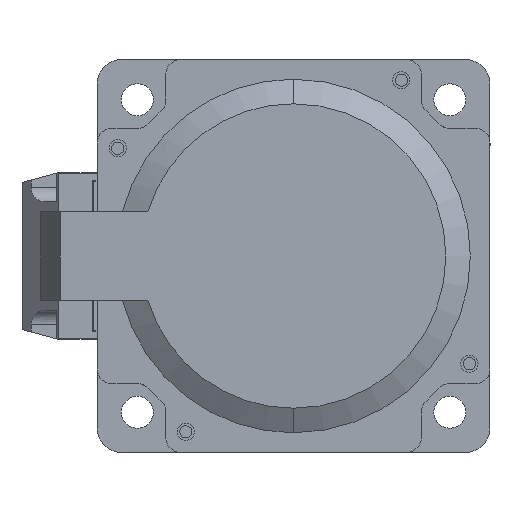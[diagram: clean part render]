
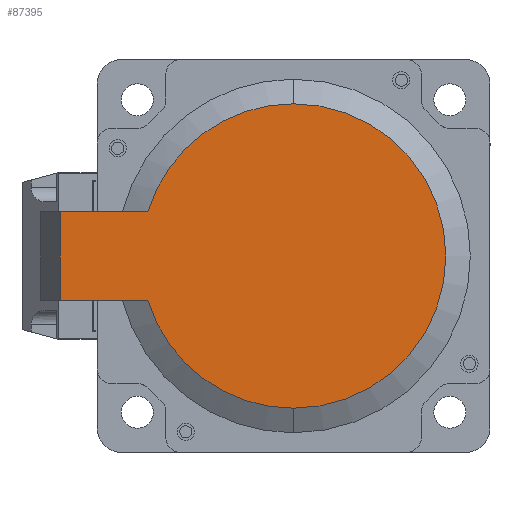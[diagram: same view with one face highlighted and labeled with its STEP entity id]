
A CAD part, left-side view. The second image highlights one B-rep face of the part: STEP entity #87395.
In plain terms, the highlighted planar face has unit normal (-1, 0, 0).
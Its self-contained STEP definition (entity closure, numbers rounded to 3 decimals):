
#1275 = DIRECTION ( 'NONE',  ( 0., 1., 0. ) ) ;
#4127 = AXIS2_PLACEMENT_3D ( 'NONE', #15299, #45981, #7302 ) ;
#4753 = CARTESIAN_POINT ( 'NONE',  ( 1030.931, 47.549, 9. ) ) ;
#6705 = ORIENTED_EDGE ( 'NONE', *, *, #36675, .T. ) ;
#7302 = DIRECTION ( 'NONE',  ( 0., 0., -1. ) ) ;
#7835 = AXIS2_PLACEMENT_3D ( 'NONE', #68580, #37611, #90963 ) ;
#9219 = LINE ( 'NONE', #58766, #88083 ) ;
#10465 = CIRCLE ( 'NONE', #49443, 31. ) ;
#10925 = ORIENTED_EDGE ( 'NONE', *, *, #48169, .F. ) ;
#12459 = DIRECTION ( 'NONE',  ( 0., 0., -1. ) ) ;
#13539 = FACE_OUTER_BOUND ( 'NONE', #24797, .T. ) ;
#14369 = ORIENTED_EDGE ( 'NONE', *, *, #21042, .T. ) ;
#14646 = DIRECTION ( 'NONE',  ( 0., 0., -1. ) ) ;
#15299 = CARTESIAN_POINT ( 'NONE',  ( 1030.931, 0., 0. ) ) ;
#18781 = DIRECTION ( 'NONE',  ( 0., 0., 1. ) ) ;
#19468 = VERTEX_POINT ( 'NONE', #47230 ) ;
#21042 = EDGE_CURVE ( 'NONE', #98476, #39352, #98800, .T. ) ;
#22027 = CARTESIAN_POINT ( 'NONE',  ( 1030.931, 0., 0. ) ) ;
#24797 = EDGE_LOOP ( 'NONE', ( #52352, #6705, #45211, #86669, #14369, #10925 ) ) ;
#29308 = VERTEX_POINT ( 'NONE', #88545 ) ;
#36675 = EDGE_CURVE ( 'NONE', #77223, #19468, #10465, .T. ) ;
#37611 = DIRECTION ( 'NONE',  ( -1., 0., 0. ) ) ;
#39319 = CARTESIAN_POINT ( 'NONE',  ( 1030.931, 47.549, 9. ) ) ;
#39352 = VERTEX_POINT ( 'NONE', #4753 ) ;
#42849 = DIRECTION ( 'NONE',  ( -1., 0., 0. ) ) ;
#44875 = VECTOR ( 'NONE', #18781, 1000. ) ;
#45211 = ORIENTED_EDGE ( 'NONE', *, *, #67749, .T. ) ;
#45740 = VERTEX_POINT ( 'NONE', #54151 ) ;
#45981 = DIRECTION ( 'NONE',  ( -1., 0., 0. ) ) ;
#46839 = CIRCLE ( 'NONE', #4127, 31. ) ;
#47230 = CARTESIAN_POINT ( 'NONE',  ( 1030.931, 0., -31. ) ) ;
#48169 = EDGE_CURVE ( 'NONE', #29308, #39352, #49639, .T. ) ;
#49443 = AXIS2_PLACEMENT_3D ( 'NONE', #22027, #52744, #14646 ) ;
#49639 = LINE ( 'NONE', #55819, #44875 ) ;
#51607 = CIRCLE ( 'NONE', #7835, 31. ) ;
#52247 = CARTESIAN_POINT ( 'NONE',  ( 1030.931, 29.665, -9. ) ) ;
#52352 = ORIENTED_EDGE ( 'NONE', *, *, #64966, .F. ) ;
#52744 = DIRECTION ( 'NONE',  ( -1., 0., 0. ) ) ;
#54151 = CARTESIAN_POINT ( 'NONE',  ( 1030.931, 0., 31. ) ) ;
#55819 = CARTESIAN_POINT ( 'NONE',  ( 1030.931, 47.549, -9. ) ) ;
#57794 = DIRECTION ( 'NONE',  ( 0., 1., 0. ) ) ;
#58766 = CARTESIAN_POINT ( 'NONE',  ( 1030.931, 47.549, -9. ) ) ;
#62921 = CARTESIAN_POINT ( 'NONE',  ( 1030.931, 29.665, 9. ) ) ;
#64966 = EDGE_CURVE ( 'NONE', #77223, #29308, #9219, .T. ) ;
#67749 = EDGE_CURVE ( 'NONE', #19468, #45740, #46839, .T. ) ;
#68580 = CARTESIAN_POINT ( 'NONE',  ( 1030.931, 0., 0. ) ) ;
#76062 = VECTOR ( 'NONE', #1275, 1000. ) ;
#76414 = AXIS2_PLACEMENT_3D ( 'NONE', #80898, #42849, #12459 ) ;
#77223 = VERTEX_POINT ( 'NONE', #52247 ) ;
#80257 = PLANE ( 'NONE',  #76414 ) ;
#80898 = CARTESIAN_POINT ( 'NONE',  ( 1030.931, 0., -31. ) ) ;
#84746 = EDGE_CURVE ( 'NONE', #45740, #98476, #51607, .T. ) ;
#86669 = ORIENTED_EDGE ( 'NONE', *, *, #84746, .T. ) ;
#87395 = ADVANCED_FACE ( 'NONE', ( #13539 ), #80257, .T. ) ;
#88083 = VECTOR ( 'NONE', #57794, 1000. ) ;
#88545 = CARTESIAN_POINT ( 'NONE',  ( 1030.931, 47.549, -9. ) ) ;
#90963 = DIRECTION ( 'NONE',  ( 0., 0., -1. ) ) ;
#98476 = VERTEX_POINT ( 'NONE', #62921 ) ;
#98800 = LINE ( 'NONE', #39319, #76062 ) ;
